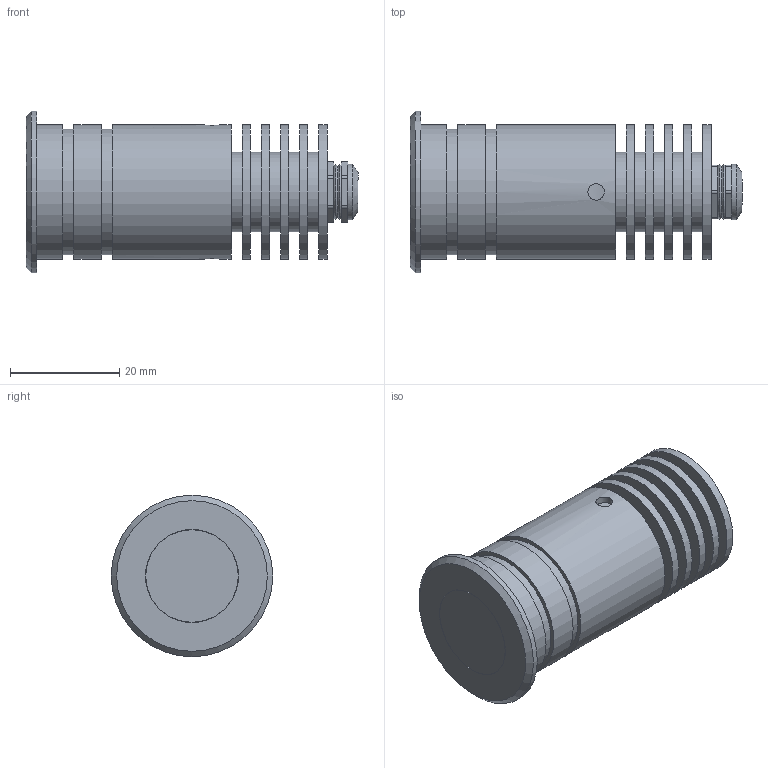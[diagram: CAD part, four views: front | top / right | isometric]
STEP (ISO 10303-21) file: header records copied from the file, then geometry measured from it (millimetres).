
FILE_DESCRIPTION(/* description */ (''),/* implementation_level */ '2;1');
FILE_NAME(/* name */ 'C:/Users/elena/OneDrive/Allegati di posta elettronica/Desktop/Pinolo goccia-ground.step',/* time_stamp */ '2020-06-09T13:26:02+02:00',/* author */ (''),/* organization */ (''),/* preprocessor_version */ 'ST-DEVELOPER v18.1',/* originating_system */ 'Autodesk Translation Framework v9.3.0.1241',/* authorisation */ '');
FILE_SCHEMA (('AUTOMOTIVE_DESIGN { 1 0 10303 214 3 1 1 }'));
Length unit declared in the file: millimetre
Products named in the file (1): (Unsaved)
Bounding box: 60.65 x 29.5 x 29.5 mm (x, y, z)
Volume: 15948.2 mm3; surface area: 12096.3 mm2
Topology: 3 solids, 4 shells, 100 faces, 194 edges, 125 vertices
Faces by surface type: plane 53, cylinder 41, cone 6
Full cylindrical faces by diameter (mm): 3 x2, 5 x1, 10.127 x1, 14.5 x5, 16.9 x1, 17 x1, 19.9 x1, 22 x3, 23 x2, 23.4 x1, 24.5 x8, 29.5 x1
Entity records: 2740 total; most frequent: CARTESIAN_POINT 558, DIRECTION 481, ORIENTED_EDGE 388, EDGE_CURVE 194, AXIS2_PLACEMENT_3D 194, EDGE_LOOP 127, VERTEX_POINT 125, FACE_OUTER_BOUND 100
